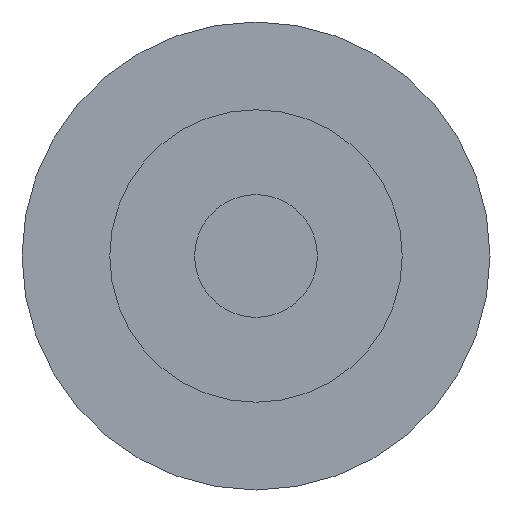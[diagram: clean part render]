
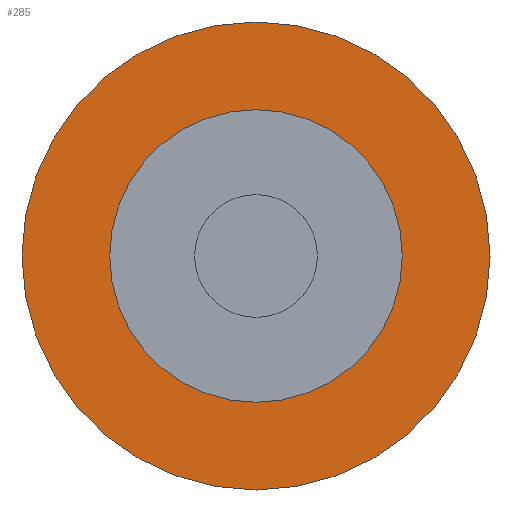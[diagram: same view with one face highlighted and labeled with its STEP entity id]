
A CAD part, left-side view. The second image highlights one B-rep face of the part: STEP entity #285.
In plain terms, the highlighted planar face has unit normal (-1, 0, 0).
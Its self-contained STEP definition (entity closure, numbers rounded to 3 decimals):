
#126 = CYLINDRICAL_SURFACE('',#127,4.);
#127 = AXIS2_PLACEMENT_3D('',#128,#129,#130);
#128 = CARTESIAN_POINT('',(46.85,-43.163,-79.032));
#129 = DIRECTION('',(1.,0.,0.));
#130 = DIRECTION('',(-0.,0.,1.));
#181 = VERTEX_POINT('',#182);
#182 = CARTESIAN_POINT('',(46.85,-43.163,-75.032));
#203 = EDGE_CURVE('',#181,#181,#204,.T.);
#204 = SURFACE_CURVE('',#205,(#210,#217),.PCURVE_S1.);
#205 = CIRCLE('',#206,4.);
#206 = AXIS2_PLACEMENT_3D('',#207,#208,#209);
#207 = CARTESIAN_POINT('',(46.85,-43.163,-79.032));
#208 = DIRECTION('',(1.,0.,0.));
#209 = DIRECTION('',(-0.,0.,1.));
#210 = PCURVE('',#126,#211);
#211 = DEFINITIONAL_REPRESENTATION('',(#212),#216);
#212 = LINE('',#213,#214);
#213 = CARTESIAN_POINT('',(0.,0.));
#214 = VECTOR('',#215,1.);
#215 = DIRECTION('',(1.,0.));
#216 = ( GEOMETRIC_REPRESENTATION_CONTEXT(2) 
PARAMETRIC_REPRESENTATION_CONTEXT() REPRESENTATION_CONTEXT('2D SPACE',''
  ) );
#217 = PCURVE('',#218,#223);
#218 = PLANE('',#219);
#219 = AXIS2_PLACEMENT_3D('',#220,#221,#222);
#220 = CARTESIAN_POINT('',(46.85,-43.163,-79.032));
#221 = DIRECTION('',(1.,0.,0.));
#222 = DIRECTION('',(-0.,0.,1.));
#223 = DEFINITIONAL_REPRESENTATION('',(#224),#228);
#224 = CIRCLE('',#225,4.);
#225 = AXIS2_PLACEMENT_2D('',#226,#227);
#226 = CARTESIAN_POINT('',(0.,0.));
#227 = DIRECTION('',(1.,0.));
#228 = ( GEOMETRIC_REPRESENTATION_CONTEXT(2) 
PARAMETRIC_REPRESENTATION_CONTEXT() REPRESENTATION_CONTEXT('2D SPACE',''
  ) );
#285 = ADVANCED_FACE('',(#286,#289),#218,.F.);
#286 = FACE_BOUND('',#287,.F.);
#287 = EDGE_LOOP('',(#288));
#288 = ORIENTED_EDGE('',*,*,#203,.T.);
#289 = FACE_BOUND('',#290,.F.);
#290 = EDGE_LOOP('',(#291));
#291 = ORIENTED_EDGE('',*,*,#292,.F.);
#292 = EDGE_CURVE('',#293,#293,#295,.T.);
#293 = VERTEX_POINT('',#294);
#294 = CARTESIAN_POINT('',(46.85,-43.163,-76.532));
#295 = SURFACE_CURVE('',#296,(#301,#308),.PCURVE_S1.);
#296 = CIRCLE('',#297,2.5);
#297 = AXIS2_PLACEMENT_3D('',#298,#299,#300);
#298 = CARTESIAN_POINT('',(46.85,-43.163,-79.032));
#299 = DIRECTION('',(1.,0.,0.));
#300 = DIRECTION('',(-0.,0.,1.));
#301 = PCURVE('',#218,#302);
#302 = DEFINITIONAL_REPRESENTATION('',(#303),#307);
#303 = CIRCLE('',#304,2.5);
#304 = AXIS2_PLACEMENT_2D('',#305,#306);
#305 = CARTESIAN_POINT('',(0.,0.));
#306 = DIRECTION('',(1.,0.));
#307 = ( GEOMETRIC_REPRESENTATION_CONTEXT(2) 
PARAMETRIC_REPRESENTATION_CONTEXT() REPRESENTATION_CONTEXT('2D SPACE',''
  ) );
#308 = PCURVE('',#309,#314);
#309 = CYLINDRICAL_SURFACE('',#310,2.5);
#310 = AXIS2_PLACEMENT_3D('',#311,#312,#313);
#311 = CARTESIAN_POINT('',(39.,-43.163,-79.032));
#312 = DIRECTION('',(1.,0.,0.));
#313 = DIRECTION('',(-0.,0.,1.));
#314 = DEFINITIONAL_REPRESENTATION('',(#315),#319);
#315 = LINE('',#316,#317);
#316 = CARTESIAN_POINT('',(0.,7.85));
#317 = VECTOR('',#318,1.);
#318 = DIRECTION('',(1.,0.));
#319 = ( GEOMETRIC_REPRESENTATION_CONTEXT(2) 
PARAMETRIC_REPRESENTATION_CONTEXT() REPRESENTATION_CONTEXT('2D SPACE',''
  ) );
